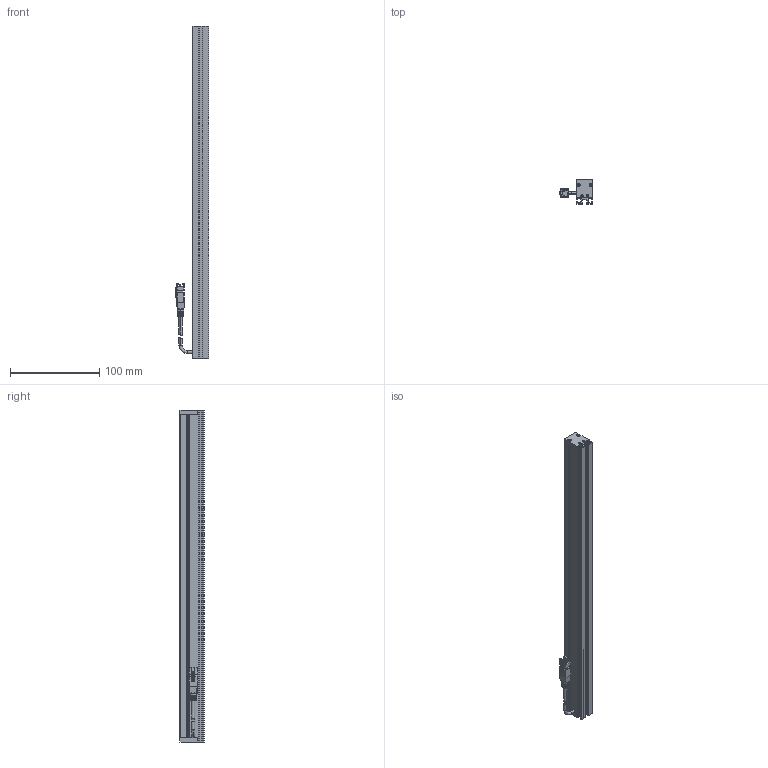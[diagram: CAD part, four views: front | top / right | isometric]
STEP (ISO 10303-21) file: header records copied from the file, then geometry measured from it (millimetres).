
FILE_DESCRIPTION (( 'STEP AP203' ), '1' );
FILE_NAME ('CK-BL37218.STEP', '2025-12-26T08:16:15', ( '' ), ( '' ), 'SwSTEP 2.0', 'SolidWorks 2022', '' );
FILE_SCHEMA (( 'CONFIG_CONTROL_DESIGN' ));
Length unit declared in the file: millimetre
Products named in the file (6): CK-BL37218-002A; CK-BL37218-003A; 十字沉头螺丝 M2x10; CK-BL37218-001A; CK-BL37218; 光源线-01
Assembly tree (9 placements, depth 2):
  CK-BL37218
    CK-BL37218-001A
    CK-BL37218-002A  x2
    CK-BL37218-003A
    光源线-01
    十字沉头螺丝 M2x10  x4
Bounding box: 37.34 x 27 x 372 mm (x, y, z)
Volume: 85107 mm3; surface area: 84035.8 mm2
Topology: 11 solids, 11 shells, 474 faces, 1231 edges, 780 vertices
Faces by surface type: plane 271, cylinder 149, cone 34, bspline 20
Entity records: 12442 total; most frequent: CARTESIAN_POINT 2514, ORIENTED_EDGE 1936, DIRECTION 1916, EDGE_CURVE 968, LINE 668, VECTOR 668, VERTEX_POINT 626, AXIS2_PLACEMENT_3D 624
